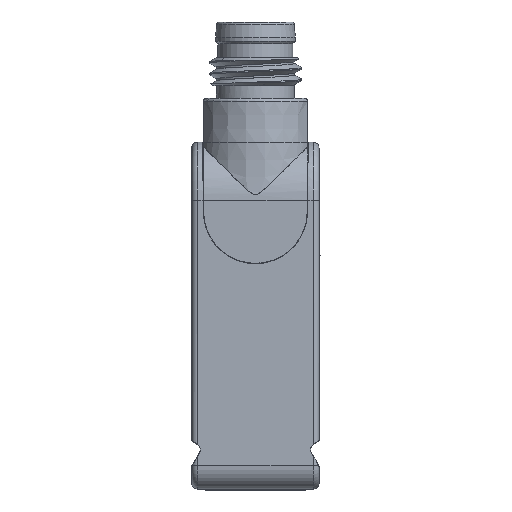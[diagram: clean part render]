
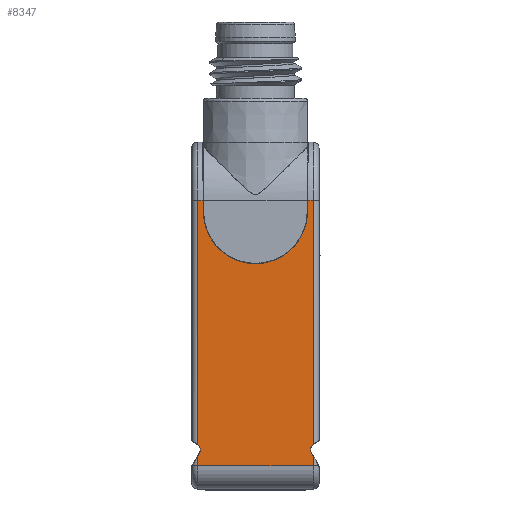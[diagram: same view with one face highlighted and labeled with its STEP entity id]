
A CAD part, front view. The second image highlights one B-rep face of the part: STEP entity #8347.
In plain terms, the highlighted planar face has unit normal (0, 1, 0).
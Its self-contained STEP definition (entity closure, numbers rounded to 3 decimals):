
#333=CIRCLE($,#9470,0.575);
#334=CIRCLE($,#9471,4.511);
#335=CIRCLE($,#9472,0.575);
#1363=FACE_OUTER_BOUND($,#1698,.T.);
#1698=EDGE_LOOP($,(#7139,#7140,#7141,#7142,#7143,#7144,#7145,#7146,#7147,
#7148,#7149,#7150,#7151,#7152));
#2184=LINE($,#22591,#2858);
#2185=LINE($,#22593,#2859);
#2186=LINE($,#22595,#2860);
#2187=LINE($,#22597,#2861);
#2188=LINE($,#22599,#2862);
#2189=LINE($,#22603,#2863);
#2190=LINE($,#22605,#2864);
#2191=LINE($,#22607,#2865);
#2192=LINE($,#22611,#2866);
#2193=LINE($,#22613,#2867);
#2194=LINE($,#22615,#2868);
#2858=VECTOR($,#10851,0.3);
#2859=VECTOR($,#10852,0.852);
#2860=VECTOR($,#10853,10.);
#2861=VECTOR($,#10854,0.852);
#2862=VECTOR($,#10855,0.3);
#2863=VECTOR($,#10858,21.143);
#2864=VECTOR($,#10859,0.48);
#2865=VECTOR($,#10860,1.039);
#2866=VECTOR($,#10863,1.039);
#2867=VECTOR($,#10864,0.48);
#2868=VECTOR($,#10865,21.143);
#4051=VERTEX_POINT($,#22589);
#4052=VERTEX_POINT($,#22590);
#4053=VERTEX_POINT($,#22592);
#4054=VERTEX_POINT($,#22594);
#4055=VERTEX_POINT($,#22596);
#4056=VERTEX_POINT($,#22598);
#4057=VERTEX_POINT($,#22600);
#4058=VERTEX_POINT($,#22602);
#4059=VERTEX_POINT($,#22604);
#4060=VERTEX_POINT($,#22606);
#4061=VERTEX_POINT($,#22608);
#4062=VERTEX_POINT($,#22610);
#4063=VERTEX_POINT($,#22612);
#4064=VERTEX_POINT($,#22614);
#5593=EDGE_CURVE($,#4051,#4052,#2184,.T.);
#5594=EDGE_CURVE($,#4052,#4053,#2185,.T.);
#5595=EDGE_CURVE($,#4053,#4054,#2186,.T.);
#5596=EDGE_CURVE($,#4054,#4055,#2187,.T.);
#5597=EDGE_CURVE($,#4055,#4056,#2188,.T.);
#5598=EDGE_CURVE($,#4056,#4057,#333,.T.);
#5599=EDGE_CURVE($,#4057,#4058,#2189,.T.);
#5600=EDGE_CURVE($,#4058,#4059,#2190,.T.);
#5601=EDGE_CURVE($,#4059,#4060,#2191,.T.);
#5602=EDGE_CURVE($,#4060,#4061,#334,.T.);
#5603=EDGE_CURVE($,#4061,#4062,#2192,.T.);
#5604=EDGE_CURVE($,#4062,#4063,#2193,.T.);
#5605=EDGE_CURVE($,#4063,#4064,#2194,.T.);
#5606=EDGE_CURVE($,#4064,#4051,#335,.T.);
#7139=ORIENTED_EDGE($,*,*,#5593,.T.);
#7140=ORIENTED_EDGE($,*,*,#5594,.T.);
#7141=ORIENTED_EDGE($,*,*,#5595,.T.);
#7142=ORIENTED_EDGE($,*,*,#5596,.T.);
#7143=ORIENTED_EDGE($,*,*,#5597,.T.);
#7144=ORIENTED_EDGE($,*,*,#5598,.T.);
#7145=ORIENTED_EDGE($,*,*,#5599,.T.);
#7146=ORIENTED_EDGE($,*,*,#5600,.T.);
#7147=ORIENTED_EDGE($,*,*,#5601,.T.);
#7148=ORIENTED_EDGE($,*,*,#5602,.T.);
#7149=ORIENTED_EDGE($,*,*,#5603,.T.);
#7150=ORIENTED_EDGE($,*,*,#5604,.T.);
#7151=ORIENTED_EDGE($,*,*,#5605,.T.);
#7152=ORIENTED_EDGE($,*,*,#5606,.T.);
#8161=PLANE($,#9469);
#8347=ADVANCED_FACE($,(#1363),#8161,.F.);
#9469=AXIS2_PLACEMENT_3D($,#22588,#10849,#10850);
#9470=AXIS2_PLACEMENT_3D($,#22601,#10856,#10857);
#9471=AXIS2_PLACEMENT_3D($,#22609,#10861,#10862);
#9472=AXIS2_PLACEMENT_3D($,#22616,#10866,#10867);
#10849=DIRECTION('center_axis',(0.,-1.,0.));
#10850=DIRECTION('ref_axis',(0.,0.,-1.));
#10851=DIRECTION($,(0.5,0.,-0.866));
#10852=DIRECTION($,(0.,0.,-1.));
#10853=DIRECTION($,(-1.,0.,0.));
#10854=DIRECTION($,(0.,0.,1.));
#10855=DIRECTION($,(0.5,0.,0.866));
#10856=DIRECTION('center_axis',(0.,-1.,0.));
#10857=DIRECTION('ref_axis',(-1.,0.,0.));
#10858=DIRECTION($,(0.,0.,1.));
#10859=DIRECTION($,(1.,0.,0.));
#10860=DIRECTION($,(0.009,0.,-1.));
#10861=DIRECTION('center_axis',(0.,-1.,0.));
#10862=DIRECTION('ref_axis',(-1.,0.,0.));
#10863=DIRECTION($,(0.009,0.,1.));
#10864=DIRECTION($,(1.,0.,0.));
#10865=DIRECTION($,(0.,0.,-1.));
#10866=DIRECTION('center_axis',(0.,-1.,0.));
#10867=DIRECTION('ref_axis',(-1.,0.,0.));
#22588=CARTESIAN_POINT('Origin',(0.,0.,
26.8));
#22589=CARTESIAN_POINT('',(4.85,0.,4.912));
#22590=CARTESIAN_POINT('',(5.,0.,4.652));
#22591=CARTESIAN_POINT($,(4.85,0.,4.912));
#22592=CARTESIAN_POINT('',(5.,0.,3.8));
#22593=CARTESIAN_POINT($,(5.,0.,4.652));
#22594=CARTESIAN_POINT('',(-5.,0.,3.8));
#22595=CARTESIAN_POINT($,(5.,0.,3.8));
#22596=CARTESIAN_POINT('',(-5.,0.,4.652));
#22597=CARTESIAN_POINT($,(-5.,0.,3.8));
#22598=CARTESIAN_POINT('',(-4.85,0.,4.912));
#22599=CARTESIAN_POINT($,(-5.,0.,4.652));
#22600=CARTESIAN_POINT('',(-5.,0.,5.657));
#22601=CARTESIAN_POINT('Origin',(-5.348,0.,
5.2));
#22602=CARTESIAN_POINT('',(-5.,0.,26.8));
#22603=CARTESIAN_POINT($,(-5.,0.,5.657));
#22604=CARTESIAN_POINT('',(-4.52,0.,26.8));
#22605=CARTESIAN_POINT($,(-5.,0.,26.8));
#22606=CARTESIAN_POINT('',(-4.511,0.,25.761));
#22607=CARTESIAN_POINT($,(-4.52,0.,26.8));
#22608=CARTESIAN_POINT('',(4.511,0.,25.761));
#22609=CARTESIAN_POINT('Origin',(0.,0.,
25.8));
#22610=CARTESIAN_POINT('',(4.52,0.,26.8));
#22611=CARTESIAN_POINT($,(4.511,0.,25.761));
#22612=CARTESIAN_POINT('',(5.,0.,26.8));
#22613=CARTESIAN_POINT($,(4.52,0.,26.8));
#22614=CARTESIAN_POINT('',(5.,0.,5.657));
#22615=CARTESIAN_POINT($,(5.,0.,26.8));
#22616=CARTESIAN_POINT('Origin',(5.348,0.,
5.2));
